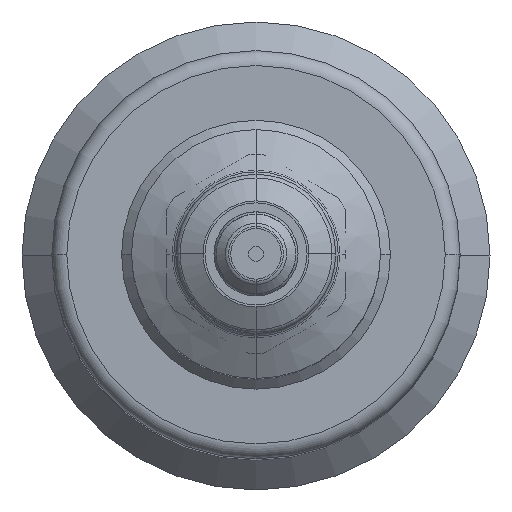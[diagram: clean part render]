
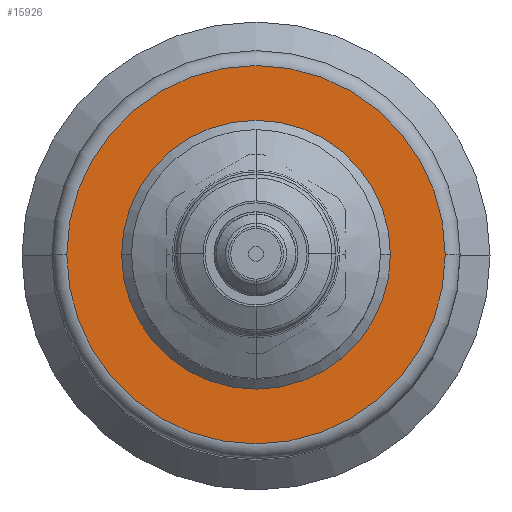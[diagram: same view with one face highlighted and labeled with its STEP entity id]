
A CAD part, top view. The second image highlights one B-rep face of the part: STEP entity #15926.
In plain terms, the highlighted planar face has unit normal (0, 0, 1).
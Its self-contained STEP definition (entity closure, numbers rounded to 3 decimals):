
#2789 = CARTESIAN_POINT ( 'NONE',  ( 38., 0., 195. ) ) ;
#2790 = CARTESIAN_POINT ( 'NONE',  ( -38., 0., 195. ) ) ;
#2792 = CARTESIAN_POINT ( 'NONE',  ( -27., 0., 195. ) ) ;
#2793 = CARTESIAN_POINT ( 'NONE',  ( 27., 0., 195. ) ) ;
#9078 = FACE_BOUND ( 'NONE', #12962, .T. ) ;
#9079 = FACE_OUTER_BOUND ( 'NONE', #12963, .T. ) ;
#9880 = PLANE ( 'NONE',  #17938 ) ;
#9881 = CARTESIAN_POINT ( 'NONE',  ( -27., 0., 195. ) ) ;
#9882 = DIRECTION ( 'NONE',  ( 0., 0., 1. ) ) ;
#9883 = DIRECTION ( 'NONE',  ( 1., 0., 0. ) ) ;
#10491 = CARTESIAN_POINT ( 'NONE',  ( 0., 0., 195. ) ) ;
#10492 = DIRECTION ( 'NONE',  ( 0., 0., -1. ) ) ;
#10493 = DIRECTION ( 'NONE',  ( -1., 0., 0. ) ) ;
#10499 = CARTESIAN_POINT ( 'NONE',  ( 0., 0., 195. ) ) ;
#10500 = DIRECTION ( 'NONE',  ( 0., 0., -1. ) ) ;
#10501 = DIRECTION ( 'NONE',  ( -1., 0., 0. ) ) ;
#10547 = CARTESIAN_POINT ( 'NONE',  ( 0., 0., 195. ) ) ;
#10548 = DIRECTION ( 'NONE',  ( 0., 0., -1. ) ) ;
#10549 = DIRECTION ( 'NONE',  ( -1., 0., 0. ) ) ;
#10550 = CARTESIAN_POINT ( 'NONE',  ( 0., 0., 195. ) ) ;
#10551 = DIRECTION ( 'NONE',  ( 0., 0., -1. ) ) ;
#10552 = DIRECTION ( 'NONE',  ( -1., 0., 0. ) ) ;
#11043 = CIRCLE ( 'NONE', #18110, 27. ) ;
#11046 = CIRCLE ( 'NONE', #18112, 38. ) ;
#11070 = CIRCLE ( 'NONE', #18124, 38. ) ;
#11071 = CIRCLE ( 'NONE', #18125, 27. ) ;
#12962 = EDGE_LOOP ( 'NONE', ( #14489, #14490 ) ) ;
#12963 = EDGE_LOOP ( 'NONE', ( #14491, #14492 ) ) ;
#14489 = ORIENTED_EDGE ( 'NONE', *, *, #16017, .T. ) ;
#14490 = ORIENTED_EDGE ( 'NONE', *, *, #16039, .T. ) ;
#14491 = ORIENTED_EDGE ( 'NONE', *, *, #16020, .F. ) ;
#14492 = ORIENTED_EDGE ( 'NONE', *, *, #16038, .F. ) ;
#15672 = VERTEX_POINT ( 'NONE', #2789 ) ;
#15673 = VERTEX_POINT ( 'NONE', #2790 ) ;
#15675 = VERTEX_POINT ( 'NONE', #2792 ) ;
#15676 = VERTEX_POINT ( 'NONE', #2793 ) ;
#15926 = ADVANCED_FACE ( 'NONE', ( #9078, #9079 ), #9880, .T. ) ;
#16017 = EDGE_CURVE ( 'NONE', #15675, #15676, #11043, .T. ) ;
#16020 = EDGE_CURVE ( 'NONE', #15673, #15672, #11046, .T. ) ;
#16038 = EDGE_CURVE ( 'NONE', #15672, #15673, #11070, .T. ) ;
#16039 = EDGE_CURVE ( 'NONE', #15676, #15675, #11071, .T. ) ;
#17938 = AXIS2_PLACEMENT_3D ( 'NONE', #9881, #9882, #9883 ) ;
#18110 = AXIS2_PLACEMENT_3D ( 'NONE', #10491, #10492, #10493 ) ;
#18112 = AXIS2_PLACEMENT_3D ( 'NONE', #10499, #10500, #10501 ) ;
#18124 = AXIS2_PLACEMENT_3D ( 'NONE', #10547, #10548, #10549 ) ;
#18125 = AXIS2_PLACEMENT_3D ( 'NONE', #10550, #10551, #10552 ) ;
